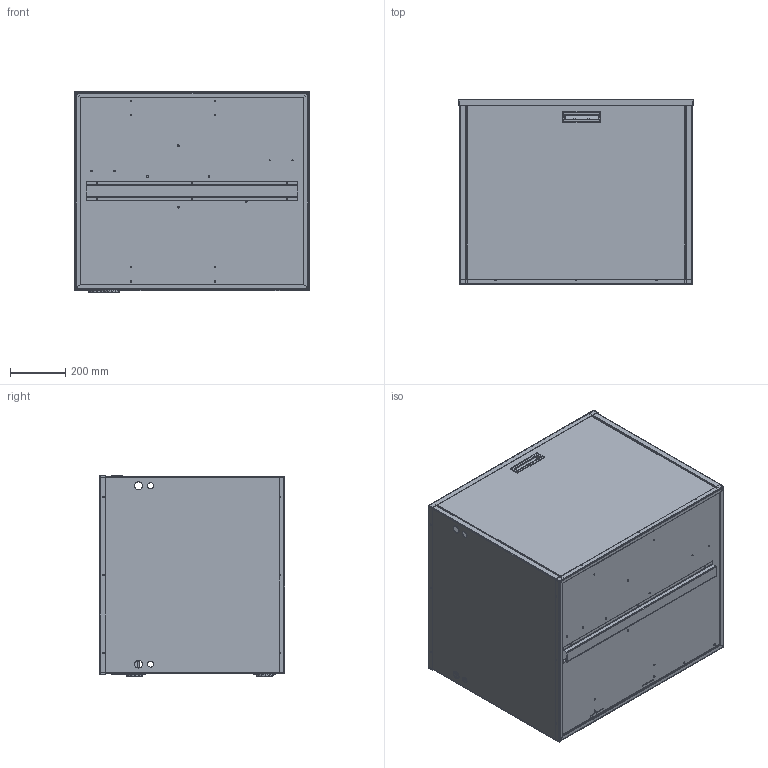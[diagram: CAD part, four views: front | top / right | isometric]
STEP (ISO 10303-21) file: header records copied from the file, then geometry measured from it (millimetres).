
FILE_DESCRIPTION (( 'STEP AP214' ), '1' );
FILE_NAME ('GW0601S1.STEP', '2016-07-14T14:41:23', ( 'BMC' ), ( 'Bard Manufacturing Co., Inc.' ), 'SwSTEP 2.0', 'SolidWorks 2016', '' );
FILE_SCHEMA (( 'AUTOMOTIVE_DESIGN' ));
Length unit declared in the file: inch
Products named in the file (17): threaded fitting; plastic trim; Cap; 6094-012; 2012-008-005; 2012-008-001; 2012-008-004; 114-225; 140-387; 1171-060; 112-469; small threaded fitting; GW0601S1; 112-470; 2012-008-029; 2012-008-002; 2012-008-006
Assembly tree (25 placements, depth 2):
  GW0601S1
    small threaded fitting  x2
    112-469  x2
    1171-060  x2
    140-387
    114-225
    2012-008-004
    2012-008-001
    2012-008-005
    6094-012  x2
    Cap  x2
    plastic trim  x2
    threaded fitting  x2
    2012-008-006
    2012-008-002  x2
    2012-008-029
    112-470  x2
Bounding box: 847.42 x 668.61 x 726.12 mm (x, y, z)
Surface area: 7473874.2 mm2 (no closed solid volume)
Topology: 0 solids, 25 shells, 2215 faces, 5478 edges, 3244 vertices
Faces by surface type: cylinder 900, plane 613, bspline 382, cone 320
Entity records: 68134 total; most frequent: CARTESIAN_POINT 17076, ORIENTED_EDGE 6806, DIRECTION 6692, EDGE_CURVE 3403, AXIS2_PLACEMENT_3D 2535, VERTEX_POINT 2064, EDGE_LOOP 1687, LINE 1622
